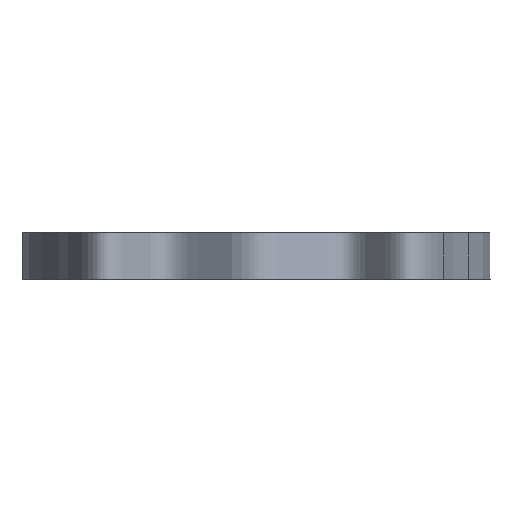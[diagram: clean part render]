
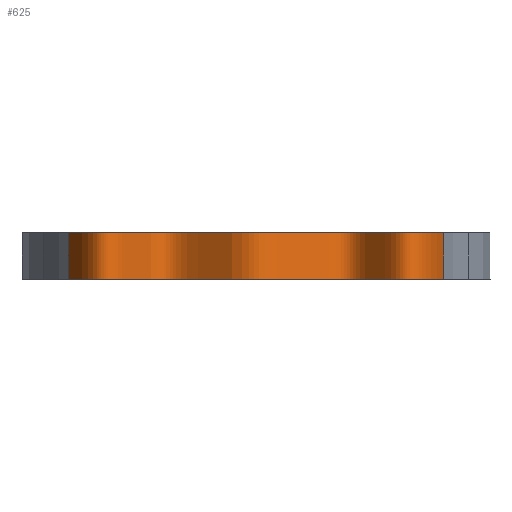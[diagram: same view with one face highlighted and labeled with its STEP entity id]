
A CAD part, left-side view. The second image highlights one B-rep face of the part: STEP entity #625.
In plain terms, the highlighted face is a extrusion surface.
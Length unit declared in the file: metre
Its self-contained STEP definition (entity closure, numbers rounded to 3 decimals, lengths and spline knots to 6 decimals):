
#32 = PLANE('',#33);
#33 = AXIS2_PLACEMENT_3D('',#34,#35,#36);
#34 = CARTESIAN_POINT('',(33.830139,0.,0.));
#35 = DIRECTION('',(0.,0.,1.));
#36 = DIRECTION('',(1.,0.,0.));
#90 = VERTEX_POINT('',#91);
#91 = CARTESIAN_POINT('',(-140.,40.,0.));
#105 = PLANE('',#106);
#106 = AXIS2_PLACEMENT_3D('',#107,#108,#109);
#107 = CARTESIAN_POINT('',(-93.749084,11.418166,0.));
#108 = DIRECTION('',(-0.526,-0.851,0.));
#109 = DIRECTION('',(-0.851,0.526,0.));
#117 = EDGE_CURVE('',#90,#118,#120,.T.);
#118 = VERTEX_POINT('',#119);
#119 = CARTESIAN_POINT('',(-140.,-40.,0.));
#120 = SURFACE_CURVE('',#121,(#131,#144),.PCURVE_S1.);
#121 = B_SPLINE_CURVE_WITH_KNOTS('',3,(#122,#123,#124,#125,#126,#127,
    #128,#129,#130),.UNSPECIFIED.,.F.,.F.,(4,1,1,1,1,1,4),(0.,
    14.142136,28.284271,50.644951,73.005631,
    87.147766,101.289902),.UNSPECIFIED.);
#122 = CARTESIAN_POINT('',(-140.,40.,0.));
#123 = CARTESIAN_POINT('',(-149.705654,36.475604,0.));
#124 = CARTESIAN_POINT('',(-154.554521,29.931472,0.));
#125 = CARTESIAN_POINT('',(-130.61601,18.704566,0.));
#126 = CARTESIAN_POINT('',(-161.87413,0.,0.)
  );
#127 = CARTESIAN_POINT('',(-130.61601,-18.704566,0.));
#128 = CARTESIAN_POINT('',(-154.554521,-29.931472,0.));
#129 = CARTESIAN_POINT('',(-149.705654,-36.475604,0.));
#130 = CARTESIAN_POINT('',(-140.,-40.,0.));
#131 = PCURVE('',#32,#132);
#132 = DEFINITIONAL_REPRESENTATION('',(#133),#143);
#133 = B_SPLINE_CURVE_WITH_KNOTS('',3,(#134,#135,#136,#137,#138,#139,
    #140,#141,#142),.UNSPECIFIED.,.F.,.F.,(4,1,1,1,1,1,4),(0.,
    14.142136,28.284271,50.644951,73.005631,
    87.147766,101.289902),.UNSPECIFIED.);
#134 = CARTESIAN_POINT('',(-173.83,40.));
#135 = CARTESIAN_POINT('',(-183.536,36.476));
#136 = CARTESIAN_POINT('',(-188.385,29.931));
#137 = CARTESIAN_POINT('',(-164.446,18.705));
#138 = CARTESIAN_POINT('',(-195.704,0.));
#139 = CARTESIAN_POINT('',(-164.446,-18.705));
#140 = CARTESIAN_POINT('',(-188.385,-29.931));
#141 = CARTESIAN_POINT('',(-183.536,-36.476));
#142 = CARTESIAN_POINT('',(-173.83,-40.));
#143 = ( GEOMETRIC_REPRESENTATION_CONTEXT(2) 
PARAMETRIC_REPRESENTATION_CONTEXT() REPRESENTATION_CONTEXT('2D SPACE',''
  ) );
#144 = PCURVE('',#145,#158);
#145 = SURFACE_OF_LINEAR_EXTRUSION('',#146,#156);
#146 = B_SPLINE_CURVE_WITH_KNOTS('',3,(#147,#148,#149,#150,#151,#152,
    #153,#154,#155),.UNSPECIFIED.,.F.,.F.,(4,1,1,1,1,1,4),(0.,
    14.142136,28.284271,50.644951,73.005631,
    87.147766,101.289902),.UNSPECIFIED.);
#147 = CARTESIAN_POINT('',(-140.,40.,0.));
#148 = CARTESIAN_POINT('',(-149.705654,36.475604,0.));
#149 = CARTESIAN_POINT('',(-154.554521,29.931472,0.));
#150 = CARTESIAN_POINT('',(-130.61601,18.704566,0.));
#151 = CARTESIAN_POINT('',(-161.87413,0.,0.)
  );
#152 = CARTESIAN_POINT('',(-130.61601,-18.704566,0.));
#153 = CARTESIAN_POINT('',(-154.554521,-29.931472,0.));
#154 = CARTESIAN_POINT('',(-149.705654,-36.475604,0.));
#155 = CARTESIAN_POINT('',(-140.,-40.,0.));
#156 = VECTOR('',#157,1.);
#157 = DIRECTION('',(0.,0.,-1.));
#158 = DEFINITIONAL_REPRESENTATION('',(#159),#163);
#159 = LINE('',#160,#161);
#160 = CARTESIAN_POINT('',(0.,0.));
#161 = VECTOR('',#162,1.);
#162 = DIRECTION('',(1.,0.));
#163 = ( GEOMETRIC_REPRESENTATION_CONTEXT(2) 
PARAMETRIC_REPRESENTATION_CONTEXT() REPRESENTATION_CONTEXT('2D SPACE',''
  ) );
#181 = PLANE('',#182);
#182 = AXIS2_PLACEMENT_3D('',#183,#184,#185);
#183 = CARTESIAN_POINT('',(-93.749084,-11.418166,0.));
#184 = DIRECTION('',(0.526,-0.851,0.));
#185 = DIRECTION('',(-0.851,-0.526,0.));
#382 = PLANE('',#383);
#383 = AXIS2_PLACEMENT_3D('',#384,#385,#386);
#384 = CARTESIAN_POINT('',(33.830139,0.,10.));
#385 = DIRECTION('',(0.,0.,1.));
#386 = DIRECTION('',(1.,0.,0.));
#529 = VERTEX_POINT('',#530);
#530 = CARTESIAN_POINT('',(-140.,40.,10.));
#551 = EDGE_CURVE('',#90,#529,#552,.T.);
#552 = SURFACE_CURVE('',#553,(#557,#564),.PCURVE_S1.);
#553 = LINE('',#554,#555);
#554 = CARTESIAN_POINT('',(-140.,40.,0.));
#555 = VECTOR('',#556,1.);
#556 = DIRECTION('',(0.,0.,1.));
#557 = PCURVE('',#105,#558);
#558 = DEFINITIONAL_REPRESENTATION('',(#559),#563);
#559 = LINE('',#560,#561);
#560 = CARTESIAN_POINT('',(54.37,0.));
#561 = VECTOR('',#562,1.);
#562 = DIRECTION('',(0.,-1.));
#563 = ( GEOMETRIC_REPRESENTATION_CONTEXT(2) 
PARAMETRIC_REPRESENTATION_CONTEXT() REPRESENTATION_CONTEXT('2D SPACE',''
  ) );
#564 = PCURVE('',#145,#565);
#565 = DEFINITIONAL_REPRESENTATION('',(#566),#570);
#566 = LINE('',#567,#568);
#567 = CARTESIAN_POINT('',(0.,0.));
#568 = VECTOR('',#569,1.);
#569 = DIRECTION('',(0.,-1.));
#570 = ( GEOMETRIC_REPRESENTATION_CONTEXT(2) 
PARAMETRIC_REPRESENTATION_CONTEXT() REPRESENTATION_CONTEXT('2D SPACE',''
  ) );
#625 = ADVANCED_FACE('',(#626),#145,.F.);
#626 = FACE_BOUND('',#627,.F.);
#627 = EDGE_LOOP('',(#628,#629,#664,#685));
#628 = ORIENTED_EDGE('',*,*,#551,.T.);
#629 = ORIENTED_EDGE('',*,*,#630,.T.);
#630 = EDGE_CURVE('',#529,#631,#633,.T.);
#631 = VERTEX_POINT('',#632);
#632 = CARTESIAN_POINT('',(-140.,-40.,10.));
#633 = SURFACE_CURVE('',#634,(#644,#651),.PCURVE_S1.);
#634 = B_SPLINE_CURVE_WITH_KNOTS('',3,(#635,#636,#637,#638,#639,#640,
    #641,#642,#643),.UNSPECIFIED.,.F.,.F.,(4,1,1,1,1,1,4),(0.,
    14.142136,28.284271,50.644951,73.005631,
    87.147766,101.289902),.UNSPECIFIED.);
#635 = CARTESIAN_POINT('',(-140.,40.,10.));
#636 = CARTESIAN_POINT('',(-149.705654,36.475604,10.));
#637 = CARTESIAN_POINT('',(-154.554521,29.931472,10.));
#638 = CARTESIAN_POINT('',(-130.61601,18.704566,10.));
#639 = CARTESIAN_POINT('',(-161.87413,0.,10.));
#640 = CARTESIAN_POINT('',(-130.61601,-18.704566,10.));
#641 = CARTESIAN_POINT('',(-154.554521,-29.931472,10.));
#642 = CARTESIAN_POINT('',(-149.705654,-36.475604,10.));
#643 = CARTESIAN_POINT('',(-140.,-40.,10.));
#644 = PCURVE('',#145,#645);
#645 = DEFINITIONAL_REPRESENTATION('',(#646),#650);
#646 = LINE('',#647,#648);
#647 = CARTESIAN_POINT('',(0.,-10.));
#648 = VECTOR('',#649,1.);
#649 = DIRECTION('',(1.,0.));
#650 = ( GEOMETRIC_REPRESENTATION_CONTEXT(2) 
PARAMETRIC_REPRESENTATION_CONTEXT() REPRESENTATION_CONTEXT('2D SPACE',''
  ) );
#651 = PCURVE('',#382,#652);
#652 = DEFINITIONAL_REPRESENTATION('',(#653),#663);
#653 = B_SPLINE_CURVE_WITH_KNOTS('',3,(#654,#655,#656,#657,#658,#659,
    #660,#661,#662),.UNSPECIFIED.,.F.,.F.,(4,1,1,1,1,1,4),(0.,
    14.142136,28.284271,50.644951,73.005631,
    87.147766,101.289902),.UNSPECIFIED.);
#654 = CARTESIAN_POINT('',(-173.83,40.));
#655 = CARTESIAN_POINT('',(-183.536,36.476));
#656 = CARTESIAN_POINT('',(-188.385,29.931));
#657 = CARTESIAN_POINT('',(-164.446,18.705));
#658 = CARTESIAN_POINT('',(-195.704,0.));
#659 = CARTESIAN_POINT('',(-164.446,-18.705));
#660 = CARTESIAN_POINT('',(-188.385,-29.931));
#661 = CARTESIAN_POINT('',(-183.536,-36.476));
#662 = CARTESIAN_POINT('',(-173.83,-40.));
#663 = ( GEOMETRIC_REPRESENTATION_CONTEXT(2) 
PARAMETRIC_REPRESENTATION_CONTEXT() REPRESENTATION_CONTEXT('2D SPACE',''
  ) );
#664 = ORIENTED_EDGE('',*,*,#665,.F.);
#665 = EDGE_CURVE('',#118,#631,#666,.T.);
#666 = SURFACE_CURVE('',#667,(#671,#678),.PCURVE_S1.);
#667 = LINE('',#668,#669);
#668 = CARTESIAN_POINT('',(-140.,-40.,0.));
#669 = VECTOR('',#670,1.);
#670 = DIRECTION('',(0.,0.,1.));
#671 = PCURVE('',#145,#672);
#672 = DEFINITIONAL_REPRESENTATION('',(#673),#677);
#673 = LINE('',#674,#675);
#674 = CARTESIAN_POINT('',(101.29,0.));
#675 = VECTOR('',#676,1.);
#676 = DIRECTION('',(0.,-1.));
#677 = ( GEOMETRIC_REPRESENTATION_CONTEXT(2) 
PARAMETRIC_REPRESENTATION_CONTEXT() REPRESENTATION_CONTEXT('2D SPACE',''
  ) );
#678 = PCURVE('',#181,#679);
#679 = DEFINITIONAL_REPRESENTATION('',(#680),#684);
#680 = LINE('',#681,#682);
#681 = CARTESIAN_POINT('',(54.37,0.));
#682 = VECTOR('',#683,1.);
#683 = DIRECTION('',(0.,-1.));
#684 = ( GEOMETRIC_REPRESENTATION_CONTEXT(2) 
PARAMETRIC_REPRESENTATION_CONTEXT() REPRESENTATION_CONTEXT('2D SPACE',''
  ) );
#685 = ORIENTED_EDGE('',*,*,#117,.F.);
